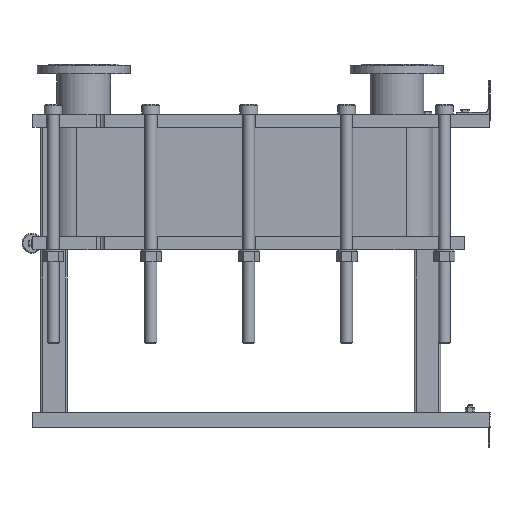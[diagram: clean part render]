
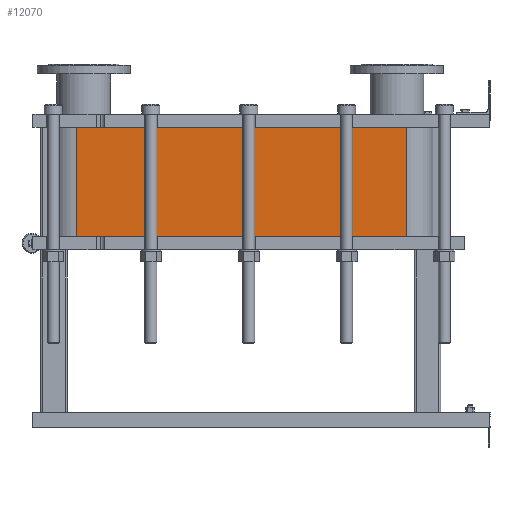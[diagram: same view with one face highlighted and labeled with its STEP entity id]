
A CAD part, left-side view. The second image highlights one B-rep face of the part: STEP entity #12070.
In plain terms, the highlighted planar face has unit normal (-1, 0, 0).
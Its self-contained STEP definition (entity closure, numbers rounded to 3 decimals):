
#1064=LINE('',#21140,#2164);
#1065=LINE('',#21144,#2165);
#1066=LINE('',#21146,#2166);
#1067=LINE('',#21147,#2167);
#2164=VECTOR('',#15790,10.);
#2165=VECTOR('',#15795,10.);
#2166=VECTOR('',#15796,10.);
#2167=VECTOR('',#15797,10.);
#3304=FACE_OUTER_BOUND('',#4091,.T.);
#4091=EDGE_LOOP('',(#9793,#9794,#9795,#9796));
#5677=VERTEX_POINT('',#21137);
#5678=VERTEX_POINT('',#21139);
#5679=VERTEX_POINT('',#21143);
#5680=VERTEX_POINT('',#21145);
#7118=EDGE_CURVE('',#5678,#5677,#1064,.T.);
#7120=EDGE_CURVE('',#5677,#5679,#1065,.T.);
#7121=EDGE_CURVE('',#5680,#5679,#1066,.T.);
#7122=EDGE_CURVE('',#5680,#5678,#1067,.T.);
#9793=ORIENTED_EDGE('',*,*,#7120,.T.);
#9794=ORIENTED_EDGE('',*,*,#7121,.F.);
#9795=ORIENTED_EDGE('',*,*,#7122,.T.);
#9796=ORIENTED_EDGE('',*,*,#7118,.T.);
#11441=PLANE('',#13191);
#12070=ADVANCED_FACE('',(#3304),#11441,.T.);
#13191=AXIS2_PLACEMENT_3D('',#21142,#15793,#15794);
#15790=DIRECTION('',(0.,0.,-1.));
#15793=DIRECTION('center_axis',(-1.,0.,0.));
#15794=DIRECTION('ref_axis',(0.,1.,0.));
#15795=DIRECTION('',(0.,-1.,0.));
#15796=DIRECTION('',(0.,0.,-1.));
#15797=DIRECTION('',(0.,1.,0.));
#21137=CARTESIAN_POINT('',(-248.152,1243.818,-327.75));
#21139=CARTESIAN_POINT('',(-248.152,1243.818,0.));
#21140=CARTESIAN_POINT('',(-248.152,1243.818,0.));
#21142=CARTESIAN_POINT('Origin',(-248.152,251.818,0.));
#21143=CARTESIAN_POINT('',(-248.152,251.818,-327.75));
#21144=CARTESIAN_POINT('',(-248.152,499.818,-327.75));
#21145=CARTESIAN_POINT('',(-248.152,251.818,0.));
#21146=CARTESIAN_POINT('',(-248.152,251.818,0.));
#21147=CARTESIAN_POINT('',(-248.152,251.818,0.));
